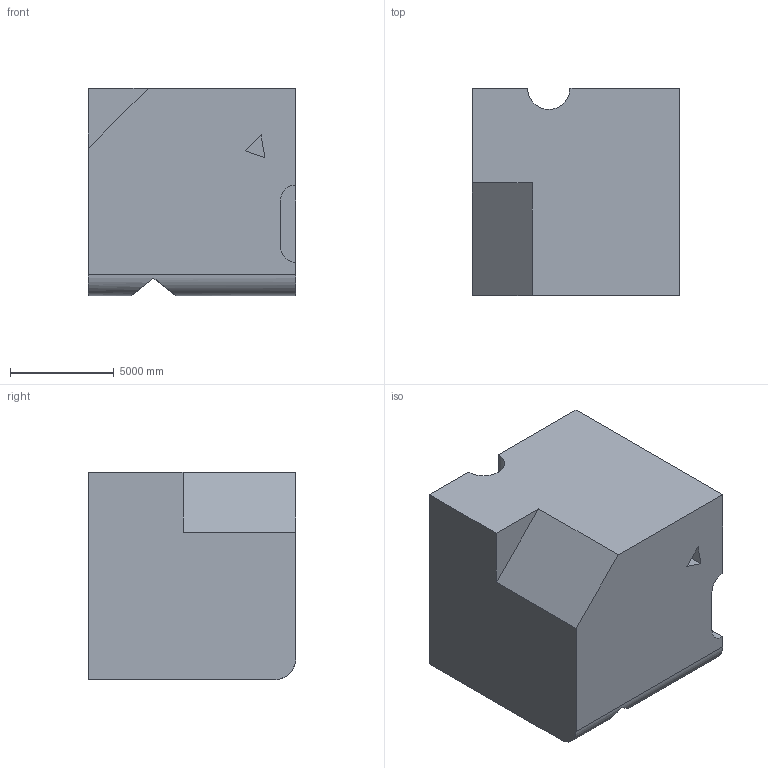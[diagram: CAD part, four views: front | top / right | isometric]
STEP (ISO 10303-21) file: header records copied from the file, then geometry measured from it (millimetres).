
FILE_DESCRIPTION (( 'STEP AP203' ), '1' );
FILE_NAME ('667.STEP', '2022-08-04T14:37:51', ( 'user' ), ( '' ), 'SwSTEP 2.0', 'SolidWorks 2021', '' );
FILE_SCHEMA (( 'CONFIG_CONTROL_DESIGN' ));
Length unit declared in the file: centimetre
Products named in the file (1): 667
Bounding box: 10000 x 10000 x 10000 mm (x, y, z)
Volume: 916071688967.4 mm3; surface area: 626773302.7 mm2
Topology: 1 solids, 1 shells, 27 faces, 72 edges, 48 vertices
Faces by surface type: plane 21, cylinder 6
Entity records: 915 total; most frequent: CARTESIAN_POINT 166, ORIENTED_EDGE 144, DIRECTION 134, EDGE_CURVE 72, LINE 54, VECTOR 54, VERTEX_POINT 48, AXIS2_PLACEMENT_3D 40
